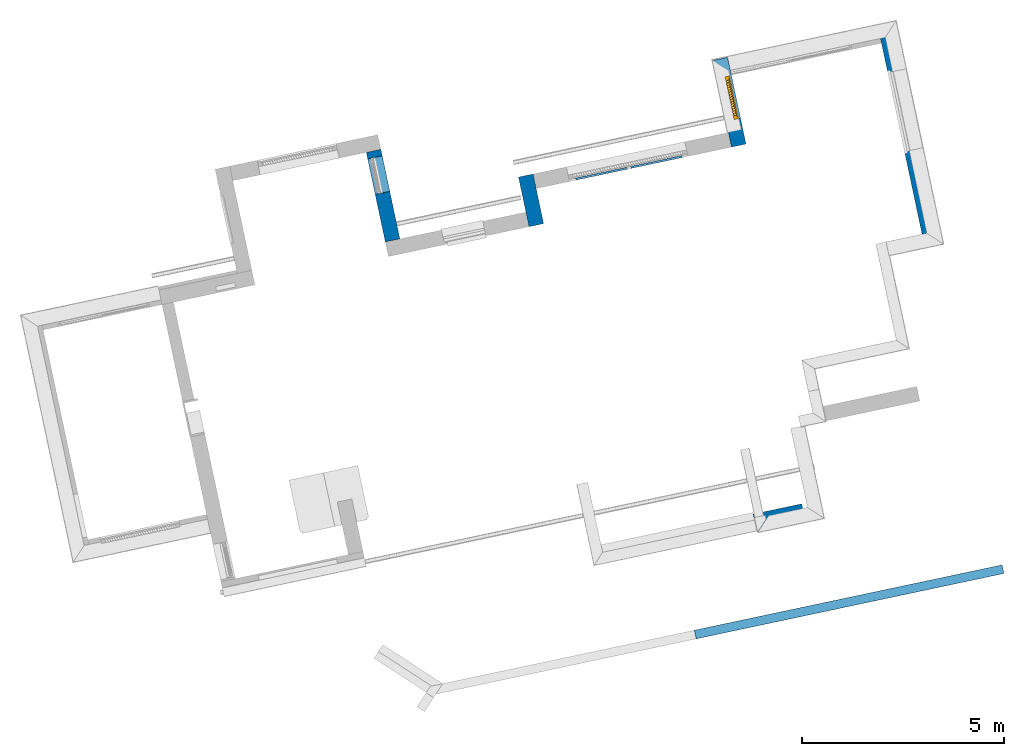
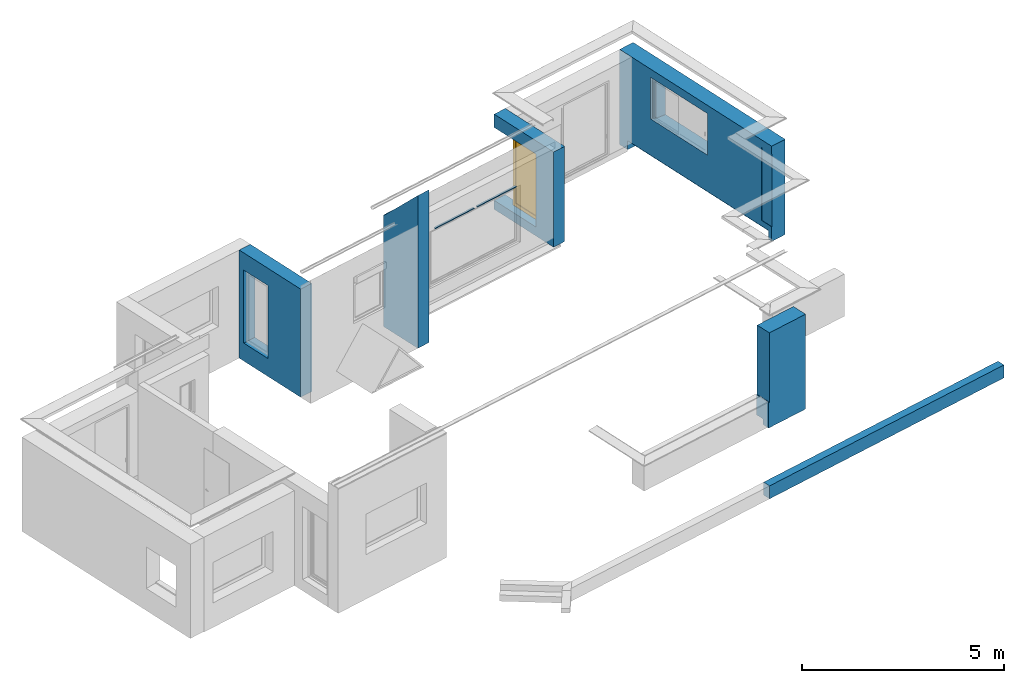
"""IFC2X3 building model written with IfcOpenShell, lengths in centimetres."""

from ifc_helpers import new_model, entity, si_unit, converted_unit, derived_unit, direction, frame, frame_2d, origin, origin_2d_with_axis, place, context, subcontext, project, spatial, polyline, rectangle, outline, extrude, clip, bounded_halfspace, faceted_brep, source, transform, mapped, material, material_list, layer, layer_set, layer_usage, type_object, type_shapes, element, fill, save


model = new_model("IFC2X3")

# Units and contexts
model_context = context("Model", 3, precision=0.001, world=origin(), true_north=direction((6.12303176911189e-17, 1.0)))
body_context = subcontext(model_context, "Body", "Model", "MODEL_VIEW")
ifc_project = project(units=[si_unit("LENGTHUNIT", "METRE", prefix="CENTI"), si_unit("AREAUNIT", "SQUARE_METRE"), si_unit("VOLUMEUNIT", "CUBIC_METRE"), converted_unit("PLANEANGLEUNIT", "DEGREE", entity("IfcRatioMeasure", 0.0174532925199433), si_unit("PLANEANGLEUNIT", "RADIAN"), dimensions=[0, 0, 0, 0, 0, 0, 0]), si_unit("MASSUNIT", "GRAM", prefix="KILO"), derived_unit("MASSDENSITYUNIT", [(si_unit("MASSUNIT", "GRAM", prefix="KILO"), 1), (si_unit("LENGTHUNIT", "METRE"), -3)]), derived_unit("IONCONCENTRATIONUNIT", [(si_unit("MASSUNIT", "GRAM", prefix="KILO"), 1), (si_unit("LENGTHUNIT", "METRE"), -3)]), derived_unit("MOMENTOFINERTIAUNIT", [(si_unit("LENGTHUNIT", "METRE"), 4)]), si_unit("TIMEUNIT", "SECOND"), si_unit("FREQUENCYUNIT", "HERTZ"), si_unit("THERMODYNAMICTEMPERATUREUNIT", "DEGREE_CELSIUS"), derived_unit("THERMALTRANSMITTANCEUNIT", [(si_unit("MASSUNIT", "GRAM", prefix="KILO"), 1), (si_unit("THERMODYNAMICTEMPERATUREUNIT", "KELVIN"), -1), (si_unit("TIMEUNIT", "SECOND"), -3)]), derived_unit("THERMALCONDUCTANCEUNIT", [(si_unit("MASSUNIT", "GRAM", prefix="KILO"), 1), (si_unit("THERMODYNAMICTEMPERATUREUNIT", "KELVIN"), -1), (si_unit("TIMEUNIT", "SECOND"), -3), (si_unit("LENGTHUNIT", "METRE"), 1)]), derived_unit("VOLUMETRICFLOWRATEUNIT", [(si_unit("LENGTHUNIT", "METRE"), 3), (si_unit("TIMEUNIT", "SECOND"), -1)]), derived_unit("MASSFLOWRATEUNIT", [(si_unit("MASSUNIT", "GRAM", prefix="KILO"), 1), (si_unit("TIMEUNIT", "SECOND"), -1)]), derived_unit("ROTATIONALFREQUENCYUNIT", [(si_unit("TIMEUNIT", "SECOND"), -1)]), si_unit("ELECTRICCURRENTUNIT", "AMPERE"), si_unit("ELECTRICVOLTAGEUNIT", "VOLT"), si_unit("POWERUNIT", "WATT"), si_unit("FORCEUNIT", "NEWTON", prefix="KILO"), si_unit("ILLUMINANCEUNIT", "LUX"), si_unit("LUMINOUSFLUXUNIT", "LUMEN"), si_unit("LUMINOUSINTENSITYUNIT", "CANDELA"), derived_unit("USERDEFINED", [(si_unit("MASSUNIT", "GRAM", prefix="KILO"), -1), (si_unit("LENGTHUNIT", "METRE"), -2), (si_unit("TIMEUNIT", "SECOND"), 3), (si_unit("LUMINOUSFLUXUNIT", "LUMEN"), 1)]), derived_unit("USERDEFINED", [(si_unit("MASSUNIT", "GRAM", prefix="KILO"), 1), (si_unit("TIMEUNIT", "SECOND"), -3), (si_unit("LENGTHUNIT", "METRE"), 3), (si_unit("ELECTRICCURRENTUNIT", "AMPERE"), -2)]), derived_unit("SOUNDPOWERUNIT", [(si_unit("MASSUNIT", "GRAM", prefix="KILO"), 1), (si_unit("TIMEUNIT", "SECOND"), -3), (si_unit("LENGTHUNIT", "METRE"), 2)]), derived_unit("SOUNDPRESSUREUNIT", [(si_unit("MASSUNIT", "GRAM", prefix="KILO"), 1), (si_unit("LENGTHUNIT", "METRE"), -1), (si_unit("TIMEUNIT", "SECOND"), -2)]), derived_unit("LINEARVELOCITYUNIT", [(si_unit("LENGTHUNIT", "METRE"), 1), (si_unit("TIMEUNIT", "SECOND"), -1)]), si_unit("PRESSUREUNIT", "PASCAL"), derived_unit("USERDEFINED", [(si_unit("MASSUNIT", "GRAM", prefix="KILO"), 1), (si_unit("LENGTHUNIT", "METRE"), -2), (si_unit("TIMEUNIT", "SECOND"), -2)]), derived_unit("LINEARFORCEUNIT", [(si_unit("MASSUNIT", "GRAM", prefix="KILO"), 1), (si_unit("TIMEUNIT", "SECOND"), -2)]), derived_unit("PLANARFORCEUNIT", [(si_unit("MASSUNIT", "GRAM", prefix="KILO"), 1), (si_unit("LENGTHUNIT", "METRE"), -1), (si_unit("TIMEUNIT", "SECOND"), -2)]), derived_unit("SPECIFICHEATCAPACITYUNIT", [(si_unit("THERMODYNAMICTEMPERATUREUNIT", "KELVIN"), -1), (si_unit("LENGTHUNIT", "METRE"), 2), (si_unit("TIMEUNIT", "SECOND"), -2)]), derived_unit("HEATINGVALUEUNIT", [(si_unit("LENGTHUNIT", "METRE"), 2), (si_unit("TIMEUNIT", "SECOND"), -2)]), derived_unit("VAPORPERMEABILITYUNIT", [(si_unit("LENGTHUNIT", "METRE"), -1), (si_unit("TIMEUNIT", "SECOND"), 1)]), derived_unit("DYNAMICVISCOSITYUNIT", [(si_unit("MASSUNIT", "GRAM", prefix="KILO"), 1), (si_unit("TIMEUNIT", "SECOND"), -1), (si_unit("LENGTHUNIT", "METRE"), -1)]), derived_unit("THERMALEXPANSIONCOEFFICIENTUNIT", [(si_unit("THERMODYNAMICTEMPERATUREUNIT", "KELVIN"), -1)]), derived_unit("MODULUSOFELASTICITYUNIT", [(si_unit("MASSUNIT", "GRAM", prefix="KILO"), 1), (si_unit("LENGTHUNIT", "METRE"), -1), (si_unit("TIMEUNIT", "SECOND"), -2)]), derived_unit("ISOTHERMALMOISTURECAPACITYUNIT", [(si_unit("LENGTHUNIT", "METRE"), 3), (si_unit("MASSUNIT", "GRAM", prefix="KILO"), -1)]), derived_unit("MOISTUREDIFFUSIVITYUNIT", [(si_unit("TIMEUNIT", "SECOND"), -1), (si_unit("LENGTHUNIT", "METRE"), 2)])], contexts=[model_context])

# Site, building, storey
site_placement = place(None, frame((14083.8920177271, -6853.25409548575, 6900.0), z_axis=(0.0, 0.0, 1.0), x_axis=(0.978188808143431, 0.207717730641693, 0.0)))
site = spatial("IfcSite", under=ifc_project, at=site_placement, Name="Surface", CompositionType="ELEMENT")
building_placement = place(site_placement, origin())
building = spatial("IfcBuilding", under=site, at=building_placement, CompositionType="ELEMENT")
storey_1_placement = place(building_placement, frame((0.0, 0.0, -17.0)))
storey_1 = spatial("IfcBuildingStorey", under=building, at=storey_1_placement, Name="Rez de chaussée (SD)", CompositionType="ELEMENT", Elevation=-16.9999999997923)

# Wall
ifc_material_1 = material(Name="__ ENDUIT_Blanc")
ifc_layer_1 = layer(ifc_material_1, 2.0)
ifc_material_2 = material(Name="__ BETON_parpaings")
ifc_layer_2 = layer(ifc_material_2, 20.0)
ifc_material_3 = material(Name="__ ISOLANT (pat 1)")
ifc_layer_3 = layer(ifc_material_3, 13.0)
ifc_layer_4 = layer(ifc_material_1, 2.0)
ifc_layer_set_1 = layer_set([ifc_layer_1, ifc_layer_2, ifc_layer_3, ifc_layer_4], Name="Mur de base:*BRIQUE 37 (20 +INT 13+2 + EXT 2) (Iso+BA13)(enduit)")
ifc_layer_usage_1 = layer_usage(ifc_layer_set_1, "AXIS2", "POSITIVE", -18.5)
wall_type_1 = type_object("IfcWallType", Name="Mur de base:*BRIQUE 37 (20 +INT 13+2 + EXT 2) (Iso+BA13)(enduit)", PredefinedType="STANDARD", material=ifc_layer_set_1)
wall_1_placement = place(storey_1_placement, frame((-6789.4551432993, 15539.6324526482, -20.0), z_axis=(0.0, 0.0, 1.0), x_axis=(0.0, -1.0, 0.0)))
element("IfcWallStandardCase", 1, at=wall_1_placement, inside=storey_1, type_object=wall_type_1, material=ifc_layer_usage_1, Name="Mur de base:*BRIQUE 37 (20 +INT 13+2 + EXT 2) (Iso+BA13)(enduit)", ObjectType="Mur de base:*BRIQUE 37 (20 +INT 13+2 + EXT 2) (Iso+BA13)(enduit)", context=body_context, shape_type="Clipping", body=[
    clip(clip(extrude(rectangle(XDim=125.693308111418, YDim=37.0000000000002, at=frame_2d((62.8466540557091, 0.0), x_axis=(-1.0, 0.0))), origin(), (0.0, 0.0, 1.0), 460.693308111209), bounded_halfspace(frame((2.32590180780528, -18.5000000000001, 337.325901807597), z_axis=(-0.707106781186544, 0.0, 0.707106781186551), x_axis=(0.0, -1.0, 0.0)), False, frame((2.32590180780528, -18.5000000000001, 337.325901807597)), polyline([(0.0, 0.0), (88.6933081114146, 0.0), (123.367406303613, 0.0), (123.367406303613, 37.0), (0.0, 37.0), (0.0, 0.0)]))), bounded_halfspace(frame((0.0, -18.5000000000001, 337.325901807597), z_axis=(0.0, 0.0, -1.0), x_axis=(0.0, -1.0, 0.0)), True, frame((0.0, -18.5000000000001, 337.325901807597)), polyline([(0.0, 0.0), (2.32590180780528, 0.0), (2.32590180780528, 37.0), (0.0, 37.0), (0.0, 0.0)]))),
])

# Wall, opening
ifc_layer_usage_2 = layer_usage(ifc_layer_set_1, "AXIS2", "NEGATIVE", 18.5)
wall_2_placement = place(storey_1_placement, frame((-7145.4551432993, 15677.6673447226, -20.0), z_axis=(0.0, 0.0, 1.0), x_axis=(0.0, -1.0, 0.0)))
wall_2 = element("IfcWallStandardCase", 2, at=wall_2_placement, inside=storey_1, type_object=wall_type_1, material=ifc_layer_usage_2, Name="Mur de base:*BRIQUE 37 (20 +INT 13+2 + EXT 2) (Iso+BA13)(enduit)", ObjectType="Mur de base:*BRIQUE 37 (20 +INT 13+2 + EXT 2) (Iso+BA13)(enduit)", context=body_context, shape_type="SweptSolid", body=[
    extrude(rectangle(XDim=226.72820018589, YDim=37.0000000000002, at=frame_2d((113.364100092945, 1.84741111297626e-13), x_axis=(-1.0, 0.0))), origin(), (0.0, 0.0, 1.0), 325.999999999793),
])
opening_1_placement = place(wall_2_placement, frame((106.500000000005, -18.5000000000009, 48.3850445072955), z_axis=(0.0, 0.0, 1.0), x_axis=(0.0, 1.0, 0.0)))
element("IfcOpeningElement", 3, at=opening_1_placement, cuts=wall_2, Name="Mur de base:*BRIQUE 37 (20 +INT 13+2 + EXT 2) (Iso+BA13)(enduit)", ObjectType="Opening", context=body_context, shape_type="Brep", body=[
    faceted_brep([(0.0, 90.0, 225.614955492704), (0.0, 90.0, 5.61495549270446), (0.0, 0.0, 5.61495549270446), (0.0, 0.0, 225.614955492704), (37.0, 90.0, 225.614955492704), (37.0, 0.0, 225.614955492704), (37.0, 0.0, 5.61495549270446), (37.0, 0.0999999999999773, 5.61495549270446), (37.0, 90.0, 5.61495549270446), (5.20000000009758, 90.0, 225.614955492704), (5.20000000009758, 90.0, 225.714955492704), (5.30000000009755, 90.0, 225.714955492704), (5.30000000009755, 90.0, 225.614955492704), (6.50000000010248, 0.0999999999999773, 5.61495549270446), (6.50000000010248, 0.0, 5.61495549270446), (6.50000000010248, 0.0, 2.11559678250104), (8.99748831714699, 0.0, 2.11559678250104), (39.5000000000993, 0.0, 0.0), (39.5000000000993, 0.0, 5.61495549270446), (25.3000000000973, 0.0, 225.614955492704), (25.3000000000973, 0.0, 225.714955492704), (25.2000000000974, 0.0, 225.714955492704), (25.2000000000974, 0.0, 225.614955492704), (5.30000000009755, 0.0, 225.614955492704), (5.30000000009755, 0.0, 225.714955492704), (5.20000000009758, 0.0, 225.714955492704), (5.20000000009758, 0.0, 225.614955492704), (8.99748831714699, 0.10000000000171, 2.11559678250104), (6.50000000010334, 0.10000000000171, 2.11559678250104), (39.5000000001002, 0.10000000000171, 5.61495549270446), (39.5000000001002, 0.10000000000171, 0.0), (25.2000000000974, 0.10000000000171, 225.714955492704), (25.3000000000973, 0.10000000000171, 225.714955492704), (25.3000000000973, 0.10000000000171, 225.614955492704), (25.2000000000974, 0.10000000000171, 225.614955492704)], [[[0, 1, 2, 3]], [[4, 5, 6, 7, 8]], [[0, 9, 10, 11, 12, 4, 8, 1]], [[1, 8, 7, 13, 14, 2]], [[2, 14, 15, 16, 17, 18, 6, 5, 19, 20, 21, 22, 23, 24, 25, 26, 3]], [[3, 26, 9, 0]], [[27, 28, 13, 7, 29, 30]], [[27, 16, 15, 28]], [[28, 15, 14, 13]], [[29, 7, 6, 18]], [[29, 18, 17, 30]], [[30, 17, 16, 27]], [[31, 32, 33, 34]], [[31, 21, 20, 32]], [[32, 20, 19, 33]], [[34, 22, 21, 31]], [[9, 26, 25, 10]], [[10, 25, 24, 11]], [[11, 24, 23, 12]], [[4, 12, 23, 22, 34, 33, 19, 5]]]),
])

# Walls
wall_3_placement = place(storey_1_placement, frame((-6530.81321908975, 15521.1324526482, 229.0)))
element("IfcWallStandardCase", 4, at=wall_3_placement, inside=storey_1, type_object=wall_type_1, material=ifc_layer_usage_2, Name="Mur de base:*BRIQUE 37 (20 +INT 13+2 + EXT 2) (Iso+BA13)(enduit)", ObjectType="Mur de base:*BRIQUE 37 (20 +INT 13+2 + EXT 2) (Iso+BA13)(enduit)", context=body_context, shape_type="SweptSolid", body=[
    extrude(rectangle(XDim=130.0, YDim=5.00000000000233, at=frame_2d((0.0, 8.66418048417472e-13), x_axis=(1.0, 0.0))), frame((65.0, -16.0, 0.0)), (0.0, 0.0, 1.0), 2.99999999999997),
])
wall_4_placement = place(storey_1_placement, frame((-6670.33321908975, 15521.1324526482, 229.0)))
element("IfcWallStandardCase", 5, at=wall_4_placement, inside=storey_1, type_object=wall_type_1, material=ifc_layer_usage_2, Name="Mur de base:*BRIQUE 37 (20 +INT 13+2 + EXT 2) (Iso+BA13)(enduit)", ObjectType="Mur de base:*BRIQUE 37 (20 +INT 13+2 + EXT 2) (Iso+BA13)(enduit)", context=body_context, shape_type="SweptSolid", body=[
    extrude(rectangle(XDim=130.0, YDim=5.00000000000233, at=frame_2d((8.59756710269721e-13, -8.66196003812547e-13), x_axis=(1.0, 0.0))), frame((65.0, -16.0, 0.0)), (0.0, 0.0, 1.0), 2.99999999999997),
])

# Wall, openings
ifc_material_4 = material(Name="__ PIERRE______________________TEST")
ifc_layer_5 = layer(ifc_material_4, 2.0)
ifc_layer_6 = layer(ifc_material_2, 20.0)
ifc_layer_7 = layer(ifc_material_3, 13.0)
ifc_layer_8 = layer(ifc_material_1, 2.0)
ifc_layer_set_2 = layer_set([ifc_layer_5, ifc_layer_6, ifc_layer_7, ifc_layer_8], Name="Mur de base:*BRIQUE 37 (20 +INT 13+2 + EXT 2) (Iso+BA13)(parement)")
ifc_layer_usage_3 = layer_usage(ifc_layer_set_2, "AXIS2", "NEGATIVE", 18.5)
wall_type_2 = type_object("IfcWallType", Name="Mur de base:*BRIQUE 37 (20 +INT 13+2 + EXT 2) (Iso+BA13)(parement)", PredefinedType="STANDARD", material=ifc_layer_set_2)
wall_5_placement = place(storey_1_placement, frame((-6258.31321908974, 15502.6324526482, -10.0), z_axis=(0.0, 0.0, 1.0), x_axis=(0.0, 1.0, 0.0)))
wall_5 = element("IfcWallStandardCase", 6, at=wall_5_placement, inside=storey_1, type_object=wall_type_2, material=ifc_layer_usage_3, Name="Mur de base:*BRIQUE 37 (20 +INT 13+2 + EXT 2) (Iso+BA13)(parement)", ObjectType="Mur de base:*BRIQUE 37 (20 +INT 13+2 + EXT 2) (Iso+BA13)(parement)", context=body_context, shape_type="SweptSolid", body=[
    extrude(rectangle(XDim=219.534892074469, YDim=37.0000000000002, at=frame_2d((109.767446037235, 0.0), x_axis=(-1.0, 0.0))), origin(), (0.0, 0.0, 1.0), 286.999999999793),
])
opening_2_placement = place(wall_5_placement, origin())
element("IfcOpeningElement", 7, at=opening_2_placement, cuts=wall_5, Name="Mur de base:*BRIQUE 37 (20 +INT 13+2 + EXT 2) (Iso+BA13)(parement)", ObjectType="Opening", context=body_context, shape_type="SweptSolid", body=[
    extrude(rectangle(XDim=220.0, YDim=49.999999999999, at=frame_2d((0.0, -1.73372427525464e-12), x_axis=(1.0, 0.0))), frame((199.534892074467, -18.5000000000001, 137.0), z_axis=(0.0, 1.0, 0.0), x_axis=(0.0, 0.0, -1.0)), (0.0, 0.0, 1.0), 57.9999999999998),
])
opening_3_placement = place(wall_5_placement, frame((147.034892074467, -13.4999999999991, 19.0360895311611)))
element("IfcOpeningElement", 8, at=opening_3_placement, cuts=wall_5, Name="Mur de base:*BRIQUE 37 (20 +INT 13+2 + EXT 2) (Iso+BA13)(parement)", ObjectType="Opening", context=body_context, shape_type="Brep", body=[
    faceted_brep([(38.5000000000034, -305.0, 7.96391046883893), (38.5000000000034, -305.0, 6.46391046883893), (100.0, -305.0, 0.0), (100.0, -305.0, 227.963910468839), (40.5000000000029, -305.0, 227.963910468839), (40.5000000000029, -305.0, 7.96391046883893), (0.0, -5.0, 7.96391046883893), (0.0, -5.0, 227.963910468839), (27.5000000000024, -5.0, 227.963910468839), (27.5000000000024, -5.0, 7.96391046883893), (0.0, -305.0, 7.96391046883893), (27.5000000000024, 0.0, 7.96391046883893), (34.5000000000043, 0.0, 7.96391046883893), (34.5000000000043, -4.0, 7.96391046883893), (40.5000000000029, -4.0, 7.96391046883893), (40.5000000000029, -5.0, 7.96391046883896), (38.5000000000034, -5.0, 7.96391046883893), (40.5000000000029, -306.0, 7.96391046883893), (34.5000000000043, -306.0, 7.96391046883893), (34.5000000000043, -310.0, 7.96391046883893), (27.5000000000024, -310.0, 7.96391046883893), (27.5000000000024, -305.0, 7.96391046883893), (0.0, -305.0, 227.963910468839), (27.5000000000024, -305.0, 227.963910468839), (100.0, -5.0, 0.0), (100.0, -5.0, 227.963910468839), (38.5000000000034, -5.0, 6.46391046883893), (34.5000000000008, -310.0, 232.96391046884), (27.5000000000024, -310.0, 232.96391046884), (34.5000000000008, -306.0, 228.963910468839), (34.5000000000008, -4.0, 228.963910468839), (34.5000000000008, 0.0, 232.96391046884), (40.4999999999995, -306.0, 228.963910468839), (40.5000000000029, -5.0, 227.963910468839), (40.5000000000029, -4.0, 228.963910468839), (27.5000000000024, 0.0, 232.96391046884)], [[[0, 1, 2, 3, 4, 5]], [[6, 7, 8, 9]], [[10, 6, 9, 11, 12, 13, 14, 15, 16, 0, 5, 17, 18, 19, 20, 21]], [[10, 22, 7, 6]], [[7, 22, 23, 8]], [[3, 2, 24, 25]], [[2, 1, 26, 24]], [[1, 0, 16, 26]], [[20, 19, 27, 28]], [[19, 18, 29, 30, 13, 12, 31, 27]], [[18, 17, 32, 29]], [[17, 5, 4, 33, 15, 14, 34, 32]], [[21, 20, 28, 35, 11, 9, 8, 23]], [[28, 27, 31, 35]], [[30, 29, 32, 34]], [[31, 12, 11, 35]], [[13, 30, 34, 14]], [[3, 25, 33, 4]], [[25, 24, 26, 16, 15, 33]], [[22, 10, 21, 23]]]),
])
opening_4_placement = place(wall_5_placement, frame((-470.0, 31.5000000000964, 27.0)))
element("IfcOpeningElement", 9, at=opening_4_placement, cuts=wall_5, Name="Mur de base:*BRIQUE 37 (20 +INT 13+2 + EXT 2) (Iso+BA13)(parement)", ObjectType="Opening", context=body_context, shape_type="Brep", body=[
    faceted_brep([(228.0, -50.0, 205.5), (459.0, -50.0, 205.5), (459.0, 0.0, 205.5), (228.0, 0.0, 205.5), (228.0, -22.5000000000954, 205.5), (0.0, -22.5000000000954, 205.5), (0.0, -27.5000000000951, 205.5), (228.0, -27.5000000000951, 205.5), (228.0, -50.0, 0.0), (228.0, -27.5000000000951, 0.0), (0.0, -27.5000000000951, 0.0), (0.0, -22.5000000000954, 0.0), (228.0, -22.5000000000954, 0.0), (228.0, 0.0, 0.0), (459.0, 0.0, 0.0), (459.0, -50.0, 0.0)], [[[0, 1, 2, 3, 4, 5, 6, 7]], [[8, 9, 10, 11, 12, 13, 14, 15]], [[1, 0, 8, 15]], [[2, 1, 15, 14]], [[3, 2, 14, 13]], [[4, 3, 13, 12]], [[5, 4, 12, 11]], [[6, 5, 11, 10]], [[7, 6, 10, 9]], [[0, 7, 9, 8]]]),
])
opening_5_placement = place(wall_5_placement, frame((64.5348920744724, -18.5000000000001, 27.0)))
opening_5 = element("IfcOpeningElement", 10, at=opening_5_placement, cuts=wall_5, Name="OPTIMAL Top Turn Single Window-1:fixe 110x220:1", ObjectType="Opening", context=body_context, shape_type="SweptSolid", body=[
    extrude(rectangle(XDim=220.0, YDim=110.0, at=frame_2d((110.0, 55.0), x_axis=(1.0, 0.0))), frame((0.0, 0.0, 0.0), z_axis=(0.0, 1.0, 0.0), x_axis=(0.0, 0.0, 1.0)), (0.0, 0.0, 1.0), 37.0),
])

# Storey
storey_2_placement = place(building_placement, origin())
storey_2 = spatial("IfcBuildingStorey", under=building, at=storey_2_placement, Name="_Rez de chaussée Séjour", CompositionType="ELEMENT", Elevation=2.07727662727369e-10)

# Window
ifc_material_5 = material(Name="Glass")
ifc_material_6 = material(Name="__ METAL_gris foncé (menuiseries acier)______________________TEST")
ifc_material_list = material_list([ifc_material_5, ifc_material_6])
window_style = type_object("IfcWindowStyle", Name="OPTIMAL Top Turn Single Window-1:fixe 110x220", ConstructionType="NOTDEFINED", OperationType="NOTDEFINED", ParameterTakesPrecedence=False, Sizeable=False, material=ifc_material_list)
shared_shape = source(origin(), body_context, "Body", "SweptSolid", [
    extrude(rectangle(XDim=0.399999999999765, YDim=88.6000000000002, at=origin_2d_with_axis()), frame((55.0, 10.1000000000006, 10.7000000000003), z_axis=(0.0, 0.0, 1.0), x_axis=(0.0, 1.0, 0.0)), (0.0, 0.0, 1.0), 198.6),
    extrude(rectangle(XDim=0.399999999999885, YDim=88.6000000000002, at=origin_2d_with_axis()), frame((55.0, 14.1000000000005, 10.7000000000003), z_axis=(0.0, 0.0, 1.0), x_axis=(0.0, 1.0, 0.0)), (0.0, 0.0, 1.0), 198.6),
    extrude(outline(polyline([(-103.5, -48.5000000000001), (103.5, -48.5000000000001), (103.5, 48.5000000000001), (-103.5, 48.5000000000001), (-103.5, -48.5000000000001)]), holes=[polyline([(99.3, -44.3000000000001), (-99.3, -44.3000000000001), (-99.3000000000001, 44.3000000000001), (99.3, 44.3000000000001), (99.3, -44.3000000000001)])]), frame((55.0, 8.0, 110.0), z_axis=(0.0, 1.0, 0.0), x_axis=(0.0, 0.0, 1.0)), (0.0, 0.0, 1.0), 8.20000000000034),
    extrude(outline(polyline([(-109.0, -54.0), (109.0, -54.0), (109.0, 54.0), (-109.0, 54.0), (-109.0, -54.0)]), holes=[polyline([(103.5, -48.5), (-103.5, -48.5), (-103.5, 48.5), (103.5, 48.5000000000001), (103.5, -48.5)])]), frame((55.0, 5.0, 110.0), z_axis=(0.0, 1.0, 0.0), x_axis=(0.0, 0.0, 1.0)), (0.0, 0.0, 1.0), 11.2000000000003),
])
type_shapes(window_style, [shared_shape])
window_placement = place(opening_5_placement, origin())
window = element("IfcWindow", 11, at=window_placement, inside=storey_2, type_object=window_style, material=ifc_material_list, Name="OPTIMAL Top Turn Single Window-1:fixe 110x220", ObjectType="OPTIMAL Top Turn Single Window-1:fixe 110x220", OverallHeight=220.0, OverallWidth=109.999999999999, context=body_context, shape_type="MappedRepresentation", body=[
    mapped(shared_shape, transform((0.0, 0.0, 0.0), scale=1.0)),
])

fill(opening_5, window)

# Wall, opening
ifc_layer_9 = layer(ifc_material_4, 10.0)
ifc_layer_10 = layer(ifc_material_2, 20.0)
ifc_layer_11 = layer(ifc_material_3, 13.0)
ifc_layer_12 = layer(ifc_material_1, 2.0)
ifc_layer_set_3 = layer_set([ifc_layer_9, ifc_layer_10, ifc_layer_11, ifc_layer_12], Name="Mur de base:*Mur (45) maçonné isolé + parement pierre")
ifc_layer_usage_4 = layer_usage(ifc_layer_set_3, "AXIS2", "POSITIVE", -22.5)
wall_type_3 = type_object("IfcWallType", Name="Mur de base:*Mur (45) maçonné isolé + parement pierre", PredefinedType="STANDARD", material=ifc_layer_set_3)
wall_6_placement = place(storey_1_placement, frame((-6412.81321908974, 14580.1324526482, 0.0)))
wall_6 = element("IfcWallStandardCase", 12, at=wall_6_placement, inside=storey_1, type_object=wall_type_3, material=ifc_layer_usage_4, Name="Mur de base:*Mur (45) maçonné isolé + parement pierre", ObjectType="Mur de base:*Mur (45) maçonné isolé + parement pierre", context=body_context, shape_type="Clipping", body=[
    clip(clip(extrude(rectangle(XDim=122.999999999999, YDim=45.0000000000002, at=frame_2d((61.4999999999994, 0.0), x_axis=(-1.0, 0.0))), origin(), (0.0, 0.0, 1.0), 285.999999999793), bounded_halfspace(frame((123.0, -2.50000000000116, 17.0), z_axis=(0.0, 0.0, 1.0), x_axis=(0.0, 1.0, 0.0)), True, frame((123.0, -2.50000000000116, 17.0), z_axis=(0.0, 0.0, 1.0), x_axis=(0.0, 1.0, 0.0)), polyline([(0.0, 0.0), (25.0, 0.0), (25.0, 123.0), (0.0, 123.0), (0.0, 0.0)]))), bounded_halfspace(frame((0.0, -2.50000000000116, 17.0), z_axis=(0.0, -1.0, 0.0), x_axis=(0.0, 0.0, 1.0)), True, frame((0.0, -2.50000000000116, 17.0), z_axis=(0.0, -1.0, 0.0), x_axis=(0.0, 0.0, 1.0)), polyline([(0.0, 0.0), (-17.0, 0.0), (-17.0, -123.0), (0.0, -123.0), (0.0, 0.0)]))),
])
opening_6_placement = place(wall_6_placement, origin())
element("IfcOpeningElement", 13, at=opening_6_placement, cuts=wall_6, Name="Mur de base:*Mur (45) maçonné isolé + parement pierre", ObjectType="Opening", context=body_context, shape_type="SweptSolid", body=[
    extrude(rectangle(XDim=295.141211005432, YDim=389.641924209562, at=origin_2d_with_axis()), frame((-192.32096210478, -37.7400000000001, 224.570605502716), z_axis=(0.0, 1.0, 0.0), x_axis=(0.0, 0.0, 1.0)), (0.0, 0.0, 1.0), 75.4800000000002),
])

# Wall, openings
ifc_layer_usage_5 = layer_usage(ifc_layer_set_3, "AXIS2", "NEGATIVE", 22.5)
wall_7_placement = place(storey_1_placement, frame((-5837.31321908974, 15722.1673447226, -10.0), z_axis=(0.0, 0.0, 1.0), x_axis=(0.0, -1.0, 0.0)))
wall_7 = element("IfcWallStandardCase", 14, at=wall_7_placement, inside=storey_1, type_object=wall_type_3, material=ifc_layer_usage_5, Name="Mur de base:*Mur (45) maçonné isolé + parement pierre", ObjectType="Mur de base:*Mur (45) maçonné isolé + parement pierre", context=body_context, shape_type="SweptSolid", body=[
    extrude(rectangle(XDim=561.499999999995, YDim=45.0000000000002, at=frame_2d((280.749999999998, 7.99360577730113e-14), x_axis=(-1.0, 0.0))), origin(), (0.0, 0.0, 1.0), 286.999999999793),
])
opening_7_placement = place(storey_1_placement, frame((-5837.31321908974, 15722.1673447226, -10.0), z_axis=(0.0, 0.0, 1.0), x_axis=(0.0, -1.0, 0.0)))
element("IfcOpeningElement", 15, at=opening_7_placement, cuts=wall_7, Name="Mur de base:*Mur (45) maçonné isolé + parement pierre:1", ObjectType="Opening", context=body_context, shape_type="SweptSolid", body=[
    extrude(rectangle(XDim=27.0, YDim=24.9999999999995, at=frame_2d((0.0, 0.0), x_axis=(0.0, 1.0))), frame((549.499999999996, -10.0, 13.5), z_axis=(-1.0, 0.0, 0.0), x_axis=(0.0, 1.0, 0.0)), (0.0, 0.0, 1.0), 519.499999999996),
])
opening_8_placement = place(wall_7_placement, frame((564.0, -101.499999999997, 38.3850445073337)))
element("IfcOpeningElement", 16, at=opening_8_placement, cuts=wall_7, Name="Mur de base:*Mur (45) maçonné isolé + parement pierre", ObjectType="Opening", context=body_context, shape_type="Brep", body=[
    faceted_brep([(-39.5000000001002, 0.0, 225.614955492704), (-39.5000000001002, 80.0, 225.614955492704), (-39.5000000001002, 80.0, 5.61495549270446), (-39.5000000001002, 0.0, 5.61495549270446), (-2.50000000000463, 0.0, 225.614955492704), (-2.50000000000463, 0.0, 5.61495549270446), (-2.50000000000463, 79.8999999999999, 5.61495549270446), (-2.50000000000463, 80.0, 5.61495549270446), (-2.50000000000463, 80.0, 225.614955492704), (-34.2000000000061, 0.0, 225.614955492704), (-34.2000000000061, 0.0, 225.714955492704), (-34.3000000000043, 0.0, 225.714955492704), (-34.3000000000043, 0.0, 225.614955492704), (-33.0, 80.0, 5.61495549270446), (-33.0, 79.8999999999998, 5.61495549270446), (-34.3000000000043, 80.0, 225.614955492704), (-34.3000000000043, 80.0, 225.714955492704), (-34.2000000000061, 80.0, 225.714955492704), (-34.2000000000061, 80.0, 225.614955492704), (-14.3000000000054, 80.0, 225.614955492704), (-14.3000000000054, 80.0, 225.714955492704), (-14.2000000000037, 80.0, 225.714955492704), (-14.2000000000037, 80.0, 225.614955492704), (0.0, 80.0, 5.61495549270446), (0.0, 80.0, 0.0), (-30.502511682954, 80.0, 2.11559678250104), (-33.0, 80.0, 2.11559678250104), (-30.5025116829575, 79.8999999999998, 2.11559678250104), (0.0, 79.8999999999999, 0.0), (0.0, 79.8999999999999, 5.61495549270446), (-33.0, 79.8999999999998, 2.11559678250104), (-14.3000000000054, 79.8999999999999, 225.714955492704), (-14.3000000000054, 79.8999999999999, 225.614955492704), (-14.2000000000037, 79.8999999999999, 225.614955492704), (-14.2000000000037, 79.8999999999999, 225.714955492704)], [[[0, 1, 2, 3]], [[4, 5, 6, 7, 8]], [[0, 3, 5, 4, 9, 10, 11, 12]], [[3, 2, 13, 14, 6, 5]], [[2, 1, 15, 16, 17, 18, 19, 20, 21, 22, 8, 7, 23, 24, 25, 26, 13]], [[1, 0, 12, 15]], [[27, 28, 29, 6, 14, 30]], [[27, 30, 26, 25]], [[30, 14, 13, 26]], [[29, 23, 7, 6]], [[29, 28, 24, 23]], [[28, 27, 25, 24]], [[31, 32, 33, 34]], [[31, 34, 21, 20]], [[34, 33, 22, 21]], [[32, 31, 20, 19]], [[12, 11, 16, 15]], [[11, 10, 17, 16]], [[10, 9, 18, 17]], [[4, 8, 22, 33, 32, 19, 18, 9]]]),
])
opening_9_placement = place(wall_7_placement, frame((324.534892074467, -50.0, 129.036089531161), z_axis=(0.0, 0.0, 1.0), x_axis=(0.0, 1.0, 0.0)))
element("IfcOpeningElement", 17, at=opening_9_placement, cuts=wall_7, Name="Mur de base:*Mur (45) maçonné isolé + parement pierre", ObjectType="Opening", context=body_context, shape_type="Brep", body=[
    faceted_brep([(0.0, 205.0, 7.96391046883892), (0.0, 5.0, 7.96391046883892), (0.0, 5.0, 127.963910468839), (0.0, 205.0, 127.963910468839), (100.0, 205.0, 127.963910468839), (40.5000000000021, 205.0, 127.963910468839), (40.5000000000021, 5.0, 127.963910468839), (100.0, 5.0, 127.963910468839), (27.5000000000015, 205.0, 7.96391046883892), (27.5000000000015, 205.0, 127.963910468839), (27.5000000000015, 5.0, 127.963910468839), (27.5000000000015, 5.0, 7.96391046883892), (27.5000000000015, 0.0, 7.96391046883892), (27.5000000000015, 0.0, 132.96391046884), (27.5000000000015, 210.0, 132.96391046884), (27.5000000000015, 210.0, 7.96391046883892), (38.5000000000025, 205.0, 7.96391046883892), (40.5000000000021, 205.0, 7.96391046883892), (100.0, 205.0, 0.0), (38.5000000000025, 205.0, 6.46391046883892), (34.5000000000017, 210.0, 7.96391046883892), (34.5000000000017, 206.0, 7.96391046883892), (40.5000000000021, 206.0, 7.96391046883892), (38.5000000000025, 5.0, 7.96391046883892), (40.5000000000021, 5.0, 7.96391046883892), (40.5000000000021, 4.0, 7.96391046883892), (34.5000000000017, 4.0, 7.96391046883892), (34.5000000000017, 0.0, 7.96391046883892), (100.0, 5.0, 0.0), (38.5000000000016, 5.0, 6.46391046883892), (34.5000000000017, 210.0, 132.96391046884), (34.5000000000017, 0.0, 132.96391046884), (34.5000000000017, 4.0, 128.963910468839), (34.5000000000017, 206.0, 128.963910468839), (40.5000000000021, 206.0, 128.963910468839), (40.5000000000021, 4.0, 128.963910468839)], [[[0, 1, 2, 3]], [[4, 5, 6, 7]], [[8, 9, 10, 11, 12, 13, 14, 15]], [[16, 17, 5, 4, 18, 19]], [[1, 11, 10, 2]], [[0, 8, 15, 20, 21, 22, 17, 16, 23, 24, 25, 26, 27, 12, 11, 1]], [[4, 7, 28, 18]], [[18, 28, 29, 19]], [[19, 29, 23, 16]], [[15, 14, 30, 20]], [[20, 30, 31, 27, 26, 32, 33, 21]], [[21, 33, 34, 22]], [[22, 34, 35, 25, 24, 6, 5, 17]], [[14, 13, 31, 30]], [[32, 35, 34, 33]], [[31, 13, 12, 27]], [[26, 25, 35, 32]], [[7, 6, 24, 23, 29, 28]], [[3, 9, 8, 0]], [[2, 10, 9, 3]]]),
])

# Wall
ifc_layer_13 = layer(ifc_material_4, 2.0)
ifc_material_7 = material(Name="__ BETON______________________TEST")
ifc_layer_14 = layer(ifc_material_7, 20.0)
ifc_layer_set_4 = layer_set([ifc_layer_13, ifc_layer_14], Name="Mur de base:*BETON 22 (20 + EXT 2) (parement)")
ifc_layer_usage_6 = layer_usage(ifc_layer_set_4, "AXIS2", "POSITIVE", -11.0)
wall_type_4 = type_object("IfcWallType", Name="Mur de base:*BETON 22 (20 + EXT 2) (parement)", PredefinedType="STANDARD", material=ifc_layer_set_4)
wall_8_placement = place(storey_1_placement, frame((-6614.91728317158, 14340.5964966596, 0.0)))
element("IfcWallStandardCase", 18, at=wall_8_placement, inside=storey_1, type_object=wall_type_4, material=ifc_layer_usage_6, Name="Mur de base:*BETON 22 (20 + EXT 2) (parement)", ObjectType="Mur de base:*BETON 22 (20 + EXT 2) (parement)", context=body_context, shape_type="SweptSolid", body=[
    extrude(rectangle(XDim=779.104064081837, YDim=21.9999999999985, at=frame_2d((389.552032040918, 0.0), x_axis=(-1.0, 0.0))), origin(), (0.0, 0.0, 1.0), 39.0000000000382),
])

save(model, "model.ifc")
